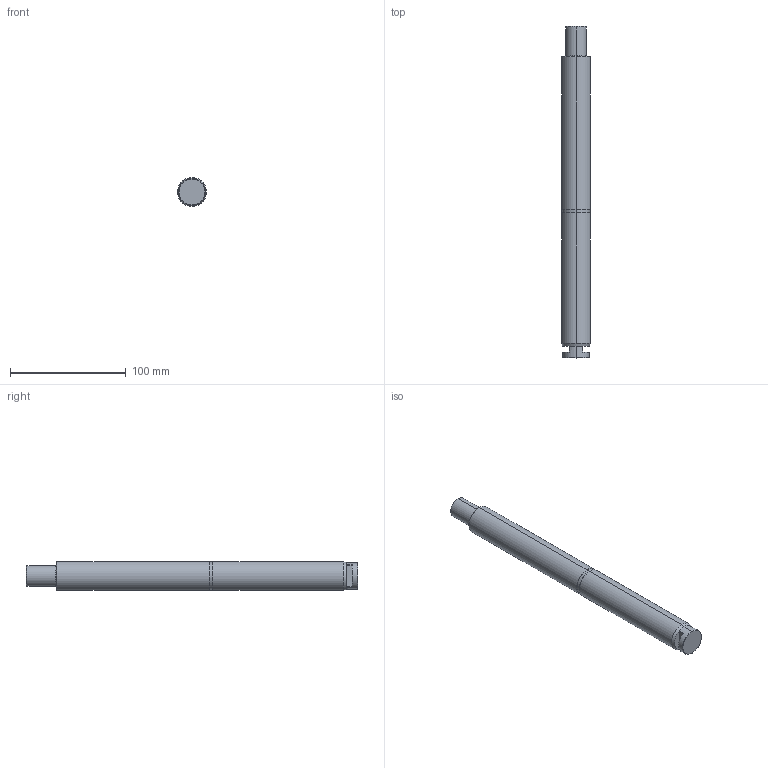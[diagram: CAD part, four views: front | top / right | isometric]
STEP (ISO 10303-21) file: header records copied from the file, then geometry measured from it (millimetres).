
FILE_DESCRIPTION (( 'STEP AP214' ), '1' );
FILE_NAME ('8062026.02 - Øòîê êëàïàíà COMBI 130.step', '2026-06-08T14:06:46', ( '' ), ( '' ), 'SwSTEP 2.0', 'SolidWorks 2023', '' );
FILE_SCHEMA (( 'AUTOMOTIVE_DESIGN' ));
Length unit declared in the file: millimetre
Products named in the file (1): 8062026.02 - Шток клапана COMBI 130
Bounding box: 25 x 286.2 x 25 mm (x, y, z)
Volume: 131517.7 mm3; surface area: 23598.3 mm2
Topology: 1 solids, 1 shells, 41 faces, 88 edges, 51 vertices
Faces by surface type: cylinder 16, plane 11, cone 10, torus 4
Entity records: 1145 total; most frequent: DIRECTION 222, CARTESIAN_POINT 179, ORIENTED_EDGE 172, AXIS2_PLACEMENT_3D 94, EDGE_CURVE 86, CIRCLE 52, VERTEX_POINT 51, EDGE_LOOP 45
